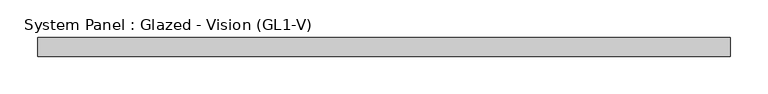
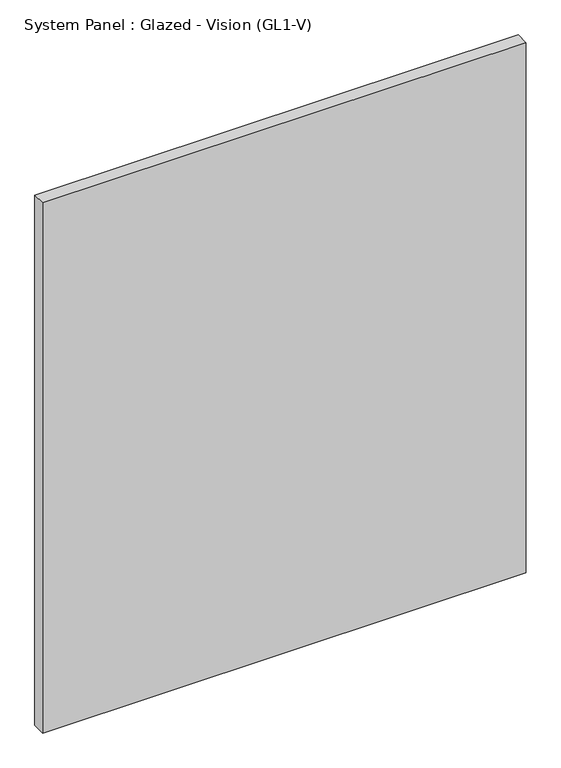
"""IFC4 building model written with IfcOpenShell, lengths in millimetres: plate geometry, System Panel : Glazed - Vision (GL1-V)."""

from ifc_helpers import new_model, si_unit, origin, origin_with_axes, place, context, project, spatial, polyline, outline, extrude, source, transform, mapped, element, save


def system_panel_glazed_vision_gl1_v_e6b0ca8a(model_context):
    return source(origin(), model_context, "Body", "SweptSolid", [
        extrude(outline(polyline([(460.375, -25.4), (-460.375, -25.4), (-460.375, 0.0), (460.375, 0.0), (460.375, -25.4)])), origin_with_axes(), (0.0, 0.0, 1.0), 1066.8000021),
    ])


if __name__ == "__main__":
    model = new_model("IFC4")
    model_context = context("Model", 3, world=origin())
    ifc_project = project(units=[si_unit("LENGTHUNIT", "METRE", prefix="MILLI")], contexts=[model_context])
    site = spatial("IfcSite", under=ifc_project)
    building = spatial("IfcBuilding", under=site)
    placement = place(None, origin())
    system_panel_glazed_vision_gl1_v_shape = system_panel_glazed_vision_gl1_v_e6b0ca8a(model_context)
    element("IfcPlate", 1, ObjectType="System Panel : Glazed - Vision (GL1-V)", at=placement, inside=building, context=model_context, shape_type="MappedRepresentation", body=[
        mapped(system_panel_glazed_vision_gl1_v_shape, transform((0.0, 0.0, 0.0), x_axis=(1.0, 0.0, 0.0), y_axis=(0.0, 1.0, 0.0), z_axis=(0.0, 0.0, 1.0))),
    ])
    save(model, "model.ifc")
